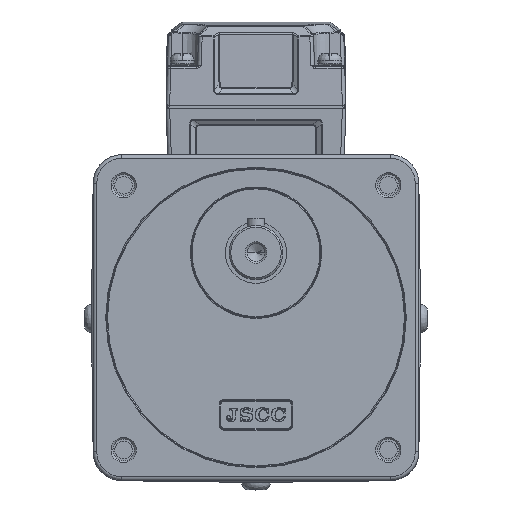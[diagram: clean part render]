
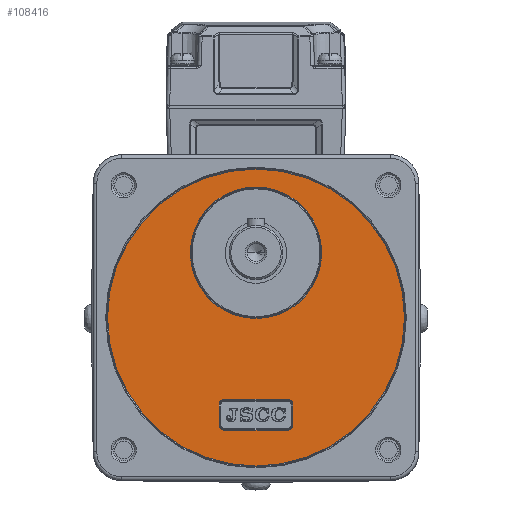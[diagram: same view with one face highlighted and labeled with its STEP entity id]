
A CAD part, top view. The second image highlights one B-rep face of the part: STEP entity #108416.
In plain terms, the highlighted planar face has unit normal (0, 0, 1).
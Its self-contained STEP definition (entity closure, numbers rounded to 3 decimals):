
#108281=CARTESIAN_POINT('',(41.25,0.,-1.2));
#108282=VERTEX_POINT('',#108281);
#108292=CARTESIAN_POINT('',(-41.25,0.,-1.2));
#108293=VERTEX_POINT('',#108292);
#108301=CARTESIAN_POINT('',(0.,0.,-1.2));
#108302=DIRECTION('',(-1.,0.,0.));
#108303=DIRECTION('',(0.,0.,-1.));
#108304=AXIS2_PLACEMENT_3D('',#108301,#108303,#108302);
#108305=CIRCLE('',#108304,41.25);
#108306=EDGE_CURVE('',#108293,#108282,#108305,.T.);
#108311=CARTESIAN_POINT('',(0.,0.,-1.2));
#108312=DIRECTION('',(-1.,0.,0.));
#108313=DIRECTION('',(0.,0.,1.));
#108314=AXIS2_PLACEMENT_3D('',#108311,#108313,#108312);
#108315=PLANE('',#108314);
#108316=CARTESIAN_POINT('',(0.,0.,-1.2));
#108317=DIRECTION('',(-1.,0.,0.));
#108318=DIRECTION('',(-0.,0.,1.));
#108319=AXIS2_PLACEMENT_3D('',#108316,#108318,#108317);
#108320=CIRCLE('',#108319,41.25);
#108321=EDGE_CURVE('',#108293,#108282,#108320,.T.);
#108322=ORIENTED_EDGE('E74',*,*,#108321,.T.);
#108323=ORIENTED_EDGE('E74',*,*,#108306,.F.);
#108324=EDGE_LOOP('',(#108322,#108323));
#108325=FACE_OUTER_BOUND('',#108324,.T.);
#108326=CARTESIAN_POINT('',(10.25,-24.,-1.2));
#108327=VERTEX_POINT('',#108326);
#108328=CARTESIAN_POINT('',(10.25,-30.,-1.2));
#108329=VERTEX_POINT('',#108328);
#108330=CARTESIAN_POINT('',(10.25,-24.,-1.2));
#108331=DIRECTION('',(0.,-1.,0.));
#108332=VECTOR('',#108331,6.);
#108333=LINE('',#108330,#108332);
#108334=EDGE_CURVE('',#108327,#108329,#108333,.T.);
#108335=ORIENTED_EDGE('E75',*,*,#108334,.T.);
#108336=CARTESIAN_POINT('',(9.,-31.25,-1.2));
#108337=VERTEX_POINT('',#108336);
#108338=CARTESIAN_POINT('',(9.,-30.,-1.2));
#108339=DIRECTION('',(1.,0.,0.));
#108340=DIRECTION('',(-0.,0.,-1.));
#108341=AXIS2_PLACEMENT_3D('',#108338,#108340,#108339);
#108342=CIRCLE('',#108341,1.25);
#108343=EDGE_CURVE('',#108329,#108337,#108342,.T.);
#108344=ORIENTED_EDGE('E76',*,*,#108343,.T.);
#108345=CARTESIAN_POINT('',(-9.,-31.25,-1.2));
#108346=VERTEX_POINT('',#108345);
#108347=CARTESIAN_POINT('',(9.,-31.25,-1.2));
#108348=DIRECTION('',(-1.,0.,0.));
#108349=VECTOR('',#108348,18.);
#108350=LINE('',#108347,#108349);
#108351=EDGE_CURVE('',#108337,#108346,#108350,.T.);
#108352=ORIENTED_EDGE('E77',*,*,#108351,.T.);
#108353=CARTESIAN_POINT('',(-10.25,-30.,-1.2));
#108354=VERTEX_POINT('',#108353);
#108355=CARTESIAN_POINT('',(-9.,-30.,-1.2));
#108356=DIRECTION('',(0.,-1.,0.));
#108357=DIRECTION('',(0.,0.,-1.));
#108358=AXIS2_PLACEMENT_3D('',#108355,#108357,#108356);
#108359=CIRCLE('',#108358,1.25);
#108360=EDGE_CURVE('',#108346,#108354,#108359,.T.);
#108361=ORIENTED_EDGE('E78',*,*,#108360,.T.);
#108362=CARTESIAN_POINT('',(-10.25,-24.,-1.2));
#108363=VERTEX_POINT('',#108362);
#108364=CARTESIAN_POINT('',(-10.25,-30.,-1.2));
#108365=DIRECTION('',(0.,1.,0.));
#108366=VECTOR('',#108365,6.);
#108367=LINE('',#108364,#108366);
#108368=EDGE_CURVE('',#108354,#108363,#108367,.T.);
#108369=ORIENTED_EDGE('E79',*,*,#108368,.T.);
#108370=CARTESIAN_POINT('',(-9.,-22.75,-1.2));
#108371=VERTEX_POINT('',#108370);
#108372=CARTESIAN_POINT('',(-9.,-24.,-1.2));
#108373=DIRECTION('',(-1.,0.,0.));
#108374=DIRECTION('',(0.,0.,-1.));
#108375=AXIS2_PLACEMENT_3D('',#108372,#108374,#108373);
#108376=CIRCLE('',#108375,1.25);
#108377=EDGE_CURVE('',#108363,#108371,#108376,.T.);
#108378=ORIENTED_EDGE('E80',*,*,#108377,.T.);
#108379=CARTESIAN_POINT('',(9.,-22.75,-1.2));
#108380=VERTEX_POINT('',#108379);
#108381=CARTESIAN_POINT('',(-9.,-22.75,-1.2));
#108382=DIRECTION('',(1.,0.,0.));
#108383=VECTOR('',#108382,18.);
#108384=LINE('',#108381,#108383);
#108385=EDGE_CURVE('',#108371,#108380,#108384,.T.);
#108386=ORIENTED_EDGE('E81',*,*,#108385,.T.);
#108387=CARTESIAN_POINT('',(9.,-24.,-1.2));
#108388=DIRECTION('',(0.,1.,0.));
#108389=DIRECTION('',(0.,0.,-1.));
#108390=AXIS2_PLACEMENT_3D('',#108387,#108389,#108388);
#108391=CIRCLE('',#108390,1.25);
#108392=EDGE_CURVE('',#108380,#108327,#108391,.T.);
#108393=ORIENTED_EDGE('E82',*,*,#108392,.T.);
#108394=EDGE_LOOP('',(#108335,#108344,#108352,#108361,#108369,#108378,#108386,#108393));
#108395=FACE_BOUND('',#108394,.T.);
#108396=CARTESIAN_POINT('',(18.25,18.,-1.2));
#108397=VERTEX_POINT('',#108396);
#108398=CARTESIAN_POINT('',(-18.25,18.,-1.2));
#108399=VERTEX_POINT('',#108398);
#108400=CARTESIAN_POINT('',(0.,18.,-1.2));
#108401=DIRECTION('',(1.,0.,0.));
#108402=DIRECTION('',(0.,0.,-1.));
#108403=AXIS2_PLACEMENT_3D('',#108400,#108402,#108401);
#108404=CIRCLE('',#108403,18.25);
#108405=EDGE_CURVE('',#108397,#108399,#108404,.T.);
#108406=ORIENTED_EDGE('E83',*,*,#108405,.T.);
#108407=CARTESIAN_POINT('',(0.,18.,-1.2));
#108408=DIRECTION('',(-1.,0.,0.));
#108409=DIRECTION('',(0.,0.,-1.));
#108410=AXIS2_PLACEMENT_3D('',#108407,#108409,#108408);
#108411=CIRCLE('',#108410,18.25);
#108412=EDGE_CURVE('',#108399,#108397,#108411,.T.);
#108413=ORIENTED_EDGE('E84',*,*,#108412,.T.);
#108414=EDGE_LOOP('',(#108406,#108413));
#108415=FACE_BOUND('',#108414,.T.);
#108416=ADVANCED_FACE('F24',(#108325,#108395,#108415),#108315,.T.);
